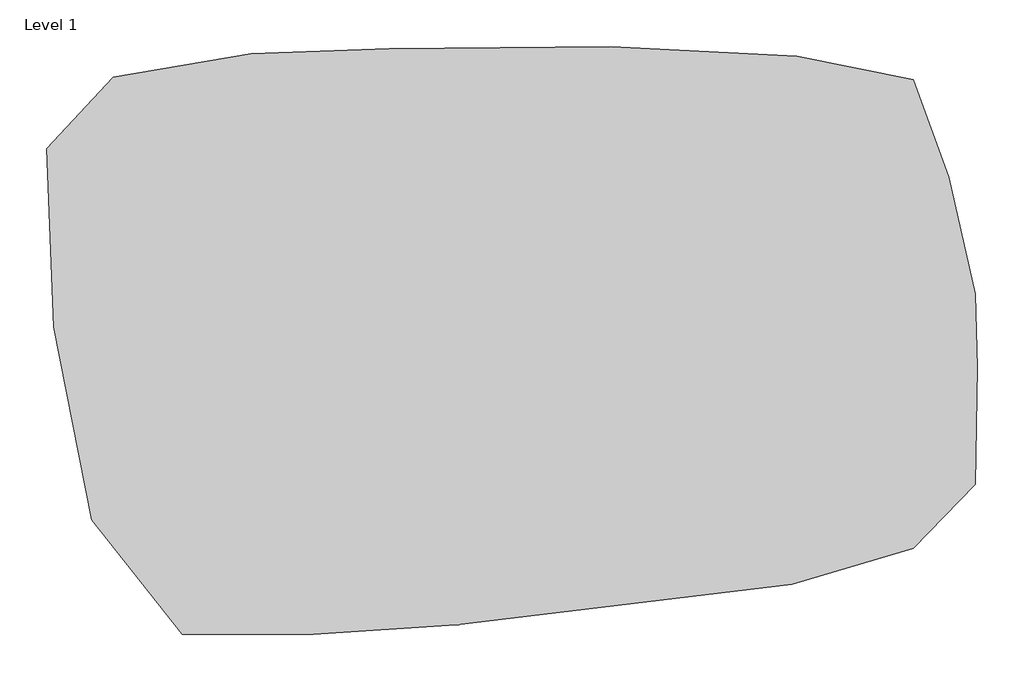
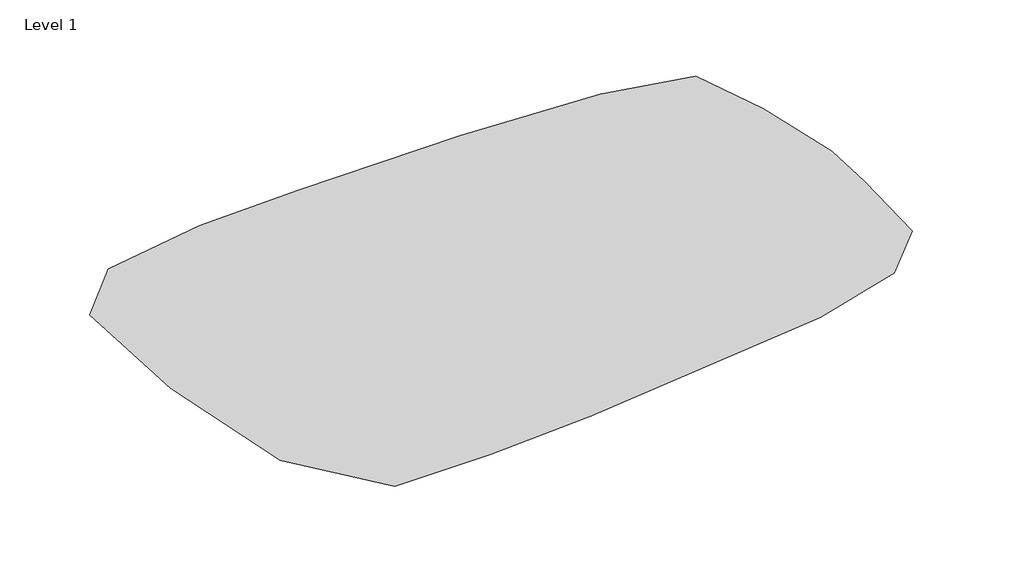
# One storey: 1 proxy.
"""IFC4 building model written with IfcOpenShell, lengths in millimetres."""

import ifcopenshell
import ifcopenshell.guid

model = None  # the IFC model being written
_history = None  # IfcOwnerHistory: only IFC2X3 demands one
_inside = {}  # id of a spatial element -> (the spatial element, [elements in it])
_under = {}  # id of a project, library or spatial element -> (it, [spatial elements below it])
_declared = {}  # id of a project -> (the project, [libraries it declares])
_typed = {}  # id of a type object -> (the type object, [elements of that type])
_made_of = {}  # id of a material, layer set ... -> (it, [elements and type objects made of it])


def new_model(schema):
    """Start an empty IFC model of exactly this schema.

    Asked for "IFC4X3", IfcOpenShell would pick the latest addendum, in which some entities
    have other attributes; the version numbers below select the first issue.
    IFC2X3 requires an IfcOwnerHistory on every rooted entity: one is made here for all.
    """
    global model, _history
    if schema == "IFC4X3":
        model = ifcopenshell.file(schema_version=(4, 3, 0, 0))
    else:
        model = ifcopenshell.file(schema=schema)
    _inside.clear()
    _under.clear()
    _declared.clear()
    _typed.clear()
    _made_of.clear()
    _history = None
    if model.schema == "IFC2X3":
        org = make("IfcOrganization", Name="unknown")
        user = make(
            "IfcPersonAndOrganization",
            ThePerson=make("IfcPerson", FamilyName="unknown"),
            TheOrganization=org,
        )
        app = make(
            "IfcApplication",
            ApplicationDeveloper=org,
            Version="unknown",
            ApplicationFullName="unknown",
            ApplicationIdentifier="unknown",
        )
        _history = make(
            "IfcOwnerHistory",
            OwningUser=user,
            OwningApplication=app,
            ChangeAction="ADDED",
            CreationDate=0,
        )
    return model


def make(cls, **values):
    """One entity of the class cls with the attributes given. An attribute that is None is left unset."""
    return model.create_entity(
        cls, **{name: value for name, value in values.items() if value is not None}
    )


def rooted(cls, **values):
    """An entity with a GlobalId (a new one), such as an element, a storey or a relation."""
    return make(cls, GlobalId=ifcopenshell.guid.new(), OwnerHistory=_history, **values)


def si_unit(unit_type, name, prefix=None):
    """IfcSIUnit, for example si_unit("LENGTHUNIT", "METRE", prefix="MILLI")."""
    return make("IfcSIUnit", UnitType=unit_type, Prefix=prefix, Name=name)


def assignment(units):
    """IfcUnitAssignment: the units of a project."""
    return None if units is None else make("IfcUnitAssignment", Units=units)


def point(xyz):
    """IfcCartesianPoint."""
    return None if xyz is None else make("IfcCartesianPoint", Coordinates=xyz)


def direction(xyz):
    """IfcDirection."""
    return None if xyz is None else make("IfcDirection", DirectionRatios=xyz)


def frame(location, z_axis=None, x_axis=None):
    """IfcAxis2Placement3D, a coordinate frame: its origin and axes. An axis left out is left unset."""
    return make(
        "IfcAxis2Placement3D",
        Location=point(location),
        Axis=direction(z_axis),
        RefDirection=direction(x_axis),
    )


def origin():
    """The frame at (0, 0, 0) with its axes left unset."""
    return frame((0.0, 0.0, 0.0))


def place(relative_to, where):
    """IfcLocalPlacement: puts the frame where relative to a parent placement (None: the world)."""
    return make(
        "IfcLocalPlacement", PlacementRelTo=relative_to, RelativePlacement=where
    )


def context(
    kind, dimensions, precision=None, world=None, true_north=None, identifier=None
):
    """IfcGeometricRepresentationContext, for example the 3D "Model" context."""
    return make(
        "IfcGeometricRepresentationContext",
        ContextIdentifier=identifier,
        ContextType=kind,
        CoordinateSpaceDimension=dimensions,
        Precision=precision,
        WorldCoordinateSystem=world,
        TrueNorth=true_north,
    )


def project(units=None, contexts=None):
    """IfcProject with its units and contexts."""
    return rooted(
        "IfcProject",
        Name="project",
        RepresentationContexts=contexts,
        UnitsInContext=assignment(units),
    )


def spatial(cls, under=None, at=None, **own):
    """A site, building, storey or space (cls), placed at a placement, below another one or the project."""
    s = rooted(cls, ObjectPlacement=at, **own)
    if under is not None:
        _under.setdefault(under.id(), (under, []))[1].append(s)
    return s


def point_list(points):
    """IfcCartesianPointList2D or 3D."""
    cls = (
        "IfcCartesianPointList2D" if len(points[0]) == 2 else "IfcCartesianPointList3D"
    )
    return make(cls, CoordList=points)


def triangles(points, corners, closed=None, point_numbers=None):
    """IfcTriangulatedFaceSet: each triangle names its three corners, points numbered from 1."""
    return make(
        "IfcTriangulatedFaceSet",
        Coordinates=point_list(points),
        Closed=closed,
        CoordIndex=corners,
        PnIndex=point_numbers,
    )


def shape(context_of_items, identifier, shape_type, items):
    """IfcShapeRepresentation: the items that make up one representation, for example the "Body"."""
    return make(
        "IfcShapeRepresentation",
        ContextOfItems=context_of_items,
        RepresentationIdentifier=identifier,
        RepresentationType=shape_type,
        Items=items,
    )


def made_of(thing, what):
    """Note that an element or type object is made of a material, layer set ...; save() writes the relation."""
    if what is not None:
        _made_of.setdefault(what.id(), (what, []))[1].append(thing)
    return thing


def element(
    cls,
    number,
    at=None,
    inside=None,
    cuts=None,
    type_object=None,
    material=None,
    context=None,
    identifier="Body",
    shape_type=None,
    held_by="IfcProductDefinitionShape",
    body=None,
    shapes=None,
    **own,
):
    """One element of the class cls, such as IfcWall. Its Tag is "e" and its number.

    at: its placement. inside: the storey or other place that contains it. cuts: it is an
    opening in that element (IfcRelVoidsElement). A single representation is given by context,
    identifier, shape_type and body (its items); several are given by shapes. held_by: the class
    of the entity that holds the representations. save() writes the other relations.
    """
    e = rooted(cls, Tag="e%d" % number, ObjectPlacement=at, **own)
    if body is not None:
        shapes = [shape(context, identifier, shape_type, body)]
    if shapes is not None:
        e.Representation = make(held_by, Representations=shapes)
    if inside is not None:
        _inside.setdefault(inside.id(), (inside, []))[1].append(e)
    if cuts is not None:
        rooted(
            "IfcRelVoidsElement", RelatingBuildingElement=cuts, RelatedOpeningElement=e
        )
    if type_object is not None:
        _typed.setdefault(type_object.id(), (type_object, []))[1].append(e)
    return made_of(e, material)


def aggregate(whole, parts):
    """IfcRelAggregates: a whole, such as a stair, and the parts it consists of."""
    return rooted("IfcRelAggregates", RelatingObject=whole, RelatedObjects=parts)


def save(model, path):
    """Write the relations noted so far, then the file.

    IfcRelAggregates (storeys below a building ...), IfcRelContainedInSpatialStructure (elements
    in a storey), IfcRelDefinesByType, IfcRelAssociatesMaterial and IfcRelDeclares: one each for
    every whole, place, type object, material and project.
    """
    for whole, parts in _under.values():
        aggregate(whole, parts)
    for where, things in _inside.values():
        rooted(
            "IfcRelContainedInSpatialStructure",
            RelatedElements=things,
            RelatingStructure=where,
        )
    for kind, things in _typed.values():
        rooted("IfcRelDefinesByType", RelatedObjects=things, RelatingType=kind)
    for what, things in _made_of.values():
        rooted("IfcRelAssociatesMaterial", RelatedObjects=things, RelatingMaterial=what)
    for by, libraries in _declared.values():
        rooted("IfcRelDeclares", RelatingContext=by, RelatedDefinitions=libraries)
    model.write(path)


model = new_model("IFC4")

# Units and contexts
model_context = context("Model", 3, world=origin())
ifc_project = project(units=[si_unit("LENGTHUNIT", "METRE", prefix="MILLI")], contexts=[model_context])

# Site, building, storey
site = spatial("IfcSite", under=ifc_project)
building = spatial("IfcBuilding", under=site)
storey = spatial("IfcBuildingStorey", under=building, Name="Level 1", Elevation=0.0)

# Proxy
placement = place(None, origin())
element("IfcBuildingElementProxy", 1, Name="Building Element Proxy", at=placement, inside=storey, context=model_context, shape_type="Tessellation", body=[
    triangles([(-16670.5417511, 5651.6538666, 0.0), (-16985.1585938, 8011.2813492, 0.0), (-14782.8395325, 10370.9088318, 0.0), (-10220.8924072, 11157.4515198, 0.0), (-5658.9458633, 11314.7593597, 0.0), (1655.8995071, 11393.4138611, 0.0), (7790.931427, 11078.7970184, 0.0), (11644.9892029, 10292.2543304, 0.0), (12824.8032349, 7067.4302399, 0.0), (13690.0004242, 3213.3718826, 0.0), (13768.6549255, 775.090044, 0.0), (13690.0004242, -3078.9684586, 0.0), (11644.9892029, -5202.6330185, 0.0), (7633.6230057, -6382.4470505, 0.0), (2757.0590378, -6854.3723145, 0.0), (-3456.6268021, -7719.5695038, 0.0), (-8175.8823486, -8034.1863464, 0.0), (-12501.8659698, -8034.1863464, 0.0), (-15490.7277191, -4258.7821999, 0.0), (-16749.1962524, 2112.212352, 0.0)], [[20, 19, 17], [20, 17, 5], [17, 19, 18], [5, 17, 16], [2, 1, 3], [1, 2, 20], [1, 4, 3], [1, 20, 4], [20, 5, 4], [16, 6, 5], [7, 15, 14], [14, 15, 16], [13, 12, 11], [13, 11, 14], [10, 14, 11], [6, 15, 7], [7, 9, 8], [9, 7, 10], [14, 10, 7], [15, 6, 16]], closed=False),
])

save(model, "model.ifc")
